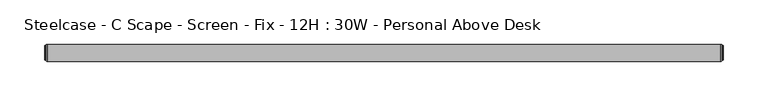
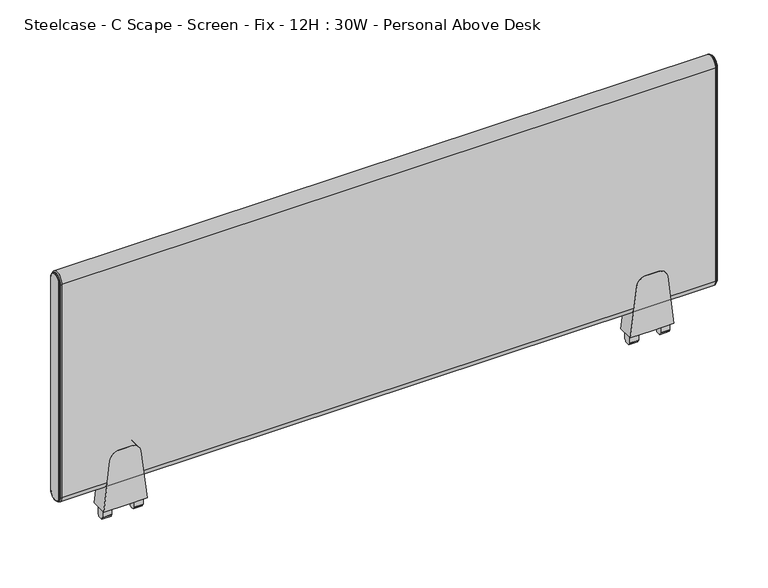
"""IFC4 building model written with IfcOpenShell, lengths in millimetres: furniture geometry, Steelcase - C Scape - Screen - Fix - 12H : 30W - Personal Above Desk."""

from ifc_helpers import new_model, si_unit, point, frame, frame_2d, origin, place, context, project, spatial, polyline, circle_curve, ellipse_curve, trimmed, segment, composite_curve, outline, extrude, source, transform, mapped, element, save
from ifc_brep_helpers import plane_surface, cylinder_surface, revolved_surface, advanced_brep


def steelcase_c_scape_screen_fix_12h_30w_personal_above_desk_3f672bbb(model_context):
    return source(origin(), model_context, "Body", "SolidModel", [
        extrude(outline(composite_curve([segment(polyline([(723.811112, 101.4730434), (784.1362421, 94.0661495)]), True, "CONTINUOUS"), segment(trimmed(circle_curve(frame_2d((782.8143718, 83.300233)), 10.8467645), [point((784.1362421, 94.0661495))], [point((793.6611362, 83.300233))], False, "CARTESIAN"), True, "CONTINUOUS"), segment(polyline([(793.6611362, 83.300233), (793.6611362, 76.2001674), (793.6611362, 69.1001018)]), True, "CONTINUOUS"), segment(trimmed(circle_curve(frame_2d((782.8143718, 69.1001018)), 10.8467645), [point((793.6611362, 69.1001018))], [point((784.1362421, 58.3341853))], False, "CARTESIAN"), True, "CONTINUOUS"), segment(polyline([(784.1362421, 58.3341853), (723.811112, 50.9272915), (723.811112, 76.2001674), (723.811112, 101.4730434)]), True, "CONTINUOUS")], self_intersect=False)), frame((0.0, -9.525, 0.0), z_axis=(0.0, 1.0, 0.0), x_axis=(0.0, 0.0, 1.0)), (0.0, 0.0, 1.0), 19.05),
        extrude(outline(polyline([(4.5465975, 723.811112), (4.5465975, 713.9051033), (4.0139265, 713.0186748), (2.9972008, 713.0186748), (2.9972008, 710.7834188), (0.0, 710.692), (-2.9972008, 710.7834188), (-2.9972008, 713.0186748), (-4.0139265, 713.0186748), (-4.5465975, 713.9051033), (-4.5465975, 723.811112), (0.0, 723.811112), (4.5465975, 723.811112)])), frame((88.9267162, 0.0, 0.0), z_axis=(1.0, 0.0, 0.0), x_axis=(0.0, 1.0, 0.0)), (0.0, 0.0, 1.0), 10.7813187),
        extrude(outline(polyline([(4.5465975, 723.811112), (4.5465975, 713.9051033), (4.0139265, 713.0186748), (2.9972008, 713.0186748), (2.9972008, 710.7834188), (0.0, 710.692), (-2.9972008, 710.7834188), (-2.9972008, 713.0186748), (-4.0139265, 713.0186748), (-4.5465975, 713.9051033), (-4.5465975, 723.811112), (0.0, 723.811112), (4.5465975, 723.811112)])), frame((52.6923, 0.0, 0.0), z_axis=(1.0, 0.0, 0.0), x_axis=(0.0, 1.0, 0.0)), (0.0, 0.0, 1.0), 10.7813187),
        extrude(outline(composite_curve([segment(polyline([(723.811112, 710.3107132), (784.1362421, 702.9038193)]), True, "CONTINUOUS"), segment(trimmed(circle_curve(frame_2d((782.8143718, 692.1379028)), 10.8467645), [point((784.1362421, 702.9038193))], [point((793.6611362, 692.1379028))], False, "CARTESIAN"), True, "CONTINUOUS"), segment(polyline([(793.6611362, 692.1379028), (793.6611362, 685.0378372), (793.6611362, 677.9377716)]), True, "CONTINUOUS"), segment(trimmed(circle_curve(frame_2d((782.8143718, 677.9377716)), 10.8467645), [point((793.6611362, 677.9377716))], [point((784.1362421, 667.1718551))], False, "CARTESIAN"), True, "CONTINUOUS"), segment(polyline([(784.1362421, 667.1718551), (723.811112, 659.7649612), (723.811112, 685.0378372), (723.811112, 710.3107132)]), True, "CONTINUOUS")], self_intersect=False)), frame((0.0, -9.525, 0.0), z_axis=(0.0, 1.0, 0.0), x_axis=(0.0, 0.0, 1.0)), (0.0, 0.0, 1.0), 19.05),
        extrude(outline(polyline([(4.5465975, 723.811112), (4.5465975, 713.9051033), (4.0139265, 713.0186748), (2.9972008, 713.0186748), (2.9972008, 710.7834188), (0.0, 710.692), (-2.9972008, 710.7834188), (-2.9972008, 713.0186748), (-4.0139265, 713.0186748), (-4.5465975, 713.9051033), (-4.5465975, 723.811112), (0.0, 723.811112), (4.5465975, 723.811112)])), frame((697.764386, 0.0, 0.0), z_axis=(1.0, 0.0, 0.0), x_axis=(0.0, 1.0, 0.0)), (0.0, 0.0, 1.0), 10.7813187),
        extrude(outline(polyline([(4.5465975, 723.811112), (4.5465975, 713.9051033), (4.0139265, 713.0186748), (2.9972008, 713.0186748), (2.9972008, 710.7834188), (0.0, 710.692), (-2.9972008, 710.7834188), (-2.9972008, 713.0186748), (-4.0139265, 713.0186748), (-4.5465975, 713.9051033), (-4.5465975, 723.811112), (0.0, 723.811112), (4.5465975, 723.811112)])), frame((661.5299698, 0.0, 0.0), z_axis=(1.0, 0.0, 0.0), x_axis=(0.0, 1.0, 0.0)), (0.0, 0.0, 1.0), 10.7813187),
        advanced_brep(
        [(758.4486613, -9.525, 1019.175), (758.4486613, 9.525, 1019.175), (758.4486613, 9.525, 758.825), (758.4486613, -9.525, 758.825), (761.2426613, 7.4929583, 1019.175), (761.2426613, -7.4929583, 1019.175), (761.2426613, -7.4929583, 758.825), (761.2426613, 7.4929583, 758.825), (760.7346545, -8.0009651, 1019.175), (760.7346545, 8.0009651, 1019.175), (759.4646613, 8.0009651, 1019.175), (759.4646613, -8.0009651, 1019.175), (759.4646613, -8.8204932, 1019.175), (759.4646613, 8.8204932, 1019.175), (759.4646613, -8.0009651, 758.825), (760.7346545, -8.0009651, 758.825), (759.4646613, -8.8204932, 758.825), (759.4646613, 8.0009651, 758.825), (760.7346545, 8.0009651, 758.825), (759.4646613, 8.8204932, 758.825)],
        [
            (0, 1, circle_curve(frame((758.4486613, 0.0, 1019.175), z_axis=(-1.0, 0.0, 0.0), x_axis=(0.0, 1.0, 0.0)), 9.525)),
            (1, 2),
            (2, 3, circle_curve(frame((758.4486613, 0.0, 758.825), z_axis=(-1.0, 0.0, 0.0), x_axis=(0.0, -1.0, 0.0)), 9.525)),
            (3, 0),
            (4, 5, circle_curve(frame((761.2426613, 0.0, 1019.175), z_axis=(1.0, 0.0, 0.0), x_axis=(0.0, 1.0, 0.0)), 7.4929583)),
            (5, 6),
            (6, 7, circle_curve(frame((761.2426613, 0.0, 758.825), z_axis=(1.0, 0.0, 0.0), x_axis=(0.0, -1.0, 0.0)), 7.4929583)),
            (7, 4),
            (8, 9, circle_curve(frame((760.7346545, 0.0, 1019.175), z_axis=(-1.0, 0.0, 0.0), x_axis=(0.0, 1.0, 0.0)), 8.0009651)),
            (9, 10),
            (10, 11, circle_curve(frame((759.4646613, 0.0, 1019.175), z_axis=(1.0, 0.0, 0.0), x_axis=(0.0, 1.0, 0.0)), 8.0009651)),
            (11, 8),
            (8, 5, circle_curve(frame((760.7346545, -7.4929583, 1019.175), z_axis=(0.0, 0.0, 1.0), x_axis=(0.0, -1.0, 0.0)), 0.5080068)),
            (4, 9, circle_curve(frame((760.7346545, 7.4929583, 1019.175), z_axis=(0.0, 0.0, 1.0), x_axis=(0.0, 1.0, 0.0)), 0.5080068)),
            (12, 13, circle_curve(frame((759.4646613, 0.0, 1019.175), z_axis=(-1.0, 0.0, 0.0), x_axis=(0.0, 1.0, 0.0)), 8.8204932)),
            (13, 1, circle_curve(frame((758.3806211, 8.3420139, 1019.175), z_axis=(0.0, 0.0, 1.0), x_axis=(0.0, 1.0, 0.0)), 1.1849411)),
            (0, 12, circle_curve(frame((758.3806211, -8.3420139, 1019.175), z_axis=(0.0, 0.0, 1.0), x_axis=(0.0, -1.0, 0.0)), 1.1849411)),
            (11, 14),
            (14, 15),
            (15, 8),
            (15, 6, circle_curve(frame((760.7346545, -7.4929583, 758.825), z_axis=(0.0, 0.0, 1.0), x_axis=(0.0, -1.0, 0.0)), 0.5080068)),
            (3, 16, circle_curve(frame((758.3806211, -8.3420139, 758.825), z_axis=(0.0, 0.0, 1.0), x_axis=(0.0, -1.0, 0.0)), 1.1849411)),
            (16, 12),
            (14, 17, circle_curve(frame((759.4646613, 0.0, 758.825), z_axis=(1.0, 0.0, 0.0), x_axis=(0.0, -1.0, 0.0)), 8.0009651)),
            (17, 18),
            (18, 15, circle_curve(frame((760.7346545, 0.0, 758.825), z_axis=(-1.0, 0.0, 0.0), x_axis=(0.0, -1.0, 0.0)), 8.0009651)),
            (18, 7, circle_curve(frame((760.7346545, 7.4929583, 758.825), z_axis=(0.0, 0.0, -1.0), x_axis=(0.0, 1.0, 0.0)), 0.5080068)),
            (2, 19, circle_curve(frame((758.3806211, 8.3420139, 758.825), z_axis=(0.0, 0.0, -1.0), x_axis=(0.0, 1.0, 0.0)), 1.1849411)),
            (19, 16, circle_curve(frame((759.4646613, 0.0, 758.825), z_axis=(-1.0, 0.0, 0.0), x_axis=(0.0, -1.0, 0.0)), 8.8204932)),
            (9, 18),
            (17, 10),
            (13, 19),
        ],
        [
            plane_surface(frame((758.4486613, -6.3509705, 1019.175), z_axis=(-1.0, 0.0, 0.0), x_axis=(0.0, 0.0, 1.0))),
            plane_surface(frame((761.2426613, -6.3509705, 1019.175), z_axis=(1.0, 0.0, 0.0), x_axis=(0.0, 0.0, -1.0))),
            cylinder_surface(frame((758.4486613, 0.0, 1019.175), z_axis=(1.0, 0.0, 0.0), x_axis=(0.0, 1.0, 0.0)), 8.0009651),
            revolved_surface(trimmed(ellipse_curve(frame((760.7346545, 7.4929583, 1019.175), z_axis=(0.0, 0.0, -1.0), x_axis=(0.0, 1.0, 0.0)), 0.5080068, 0.5080068), [point((760.7346545, 8.0009651, 1019.175))], [point((761.2426613, 7.4929583, 1019.175))], True, "CARTESIAN"), (758.4486613, 0.0, 1019.175), (1.0, 0.0, 0.0)),
            revolved_surface(trimmed(ellipse_curve(frame((758.3806211, 8.3420139, 1019.175), z_axis=(0.0, 0.0, -1.0), x_axis=(0.0, 1.0, 0.0)), 1.1849411, 1.1849411), [point((758.4486613, 9.525, 1019.175))], [point((759.4646613, 8.8204932, 1019.175))], True, "CARTESIAN"), (758.4486613, 0.0, 1019.175), (1.0, 0.0, 0.0)),
            plane_surface(frame((759.4646613, -8.0009651, 1019.175), z_axis=(0.0, -1.0, 0.0), x_axis=(0.0, 0.0, -1.0))),
            cylinder_surface(frame((760.7346545, -7.4929583, 1019.175), z_axis=(0.0, 0.0, 1.0), x_axis=(0.0, -1.0, 0.0)), 0.5080068),
            cylinder_surface(frame((758.3806211, -8.3420139, 1019.175), z_axis=(0.0, 0.0, 1.0), x_axis=(0.0, -1.0, 0.0)), 1.1849411),
            cylinder_surface(frame((758.4486613, 0.0, 758.825), z_axis=(1.0, 0.0, 0.0), x_axis=(0.0, -1.0, 0.0)), 8.0009651),
            revolved_surface(trimmed(ellipse_curve(frame((760.7346545, -7.4929583, 758.825), z_axis=(0.0, 0.0, 1.0), x_axis=(0.0, -1.0, 0.0)), 0.5080068, 0.5080068), [point((760.7346545, -8.0009651, 758.825))], [point((761.2426613, -7.4929583, 758.825))], True, "CARTESIAN"), (758.4486613, 0.0, 758.825), (1.0, 0.0, 0.0)),
            revolved_surface(trimmed(ellipse_curve(frame((758.3806211, -8.3420139, 758.825), z_axis=(0.0, 0.0, 1.0), x_axis=(0.0, -1.0, 0.0)), 1.1849411, 1.1849411), [point((758.4486613, -9.525, 758.825))], [point((759.4646613, -8.8204932, 758.825))], True, "CARTESIAN"), (758.4486613, 0.0, 758.825), (1.0, 0.0, 0.0)),
            plane_surface(frame((759.4646613, 8.0009651, 758.825), z_axis=(0.0, 1.0, 0.0), x_axis=(0.0, 0.0, 1.0))),
            cylinder_surface(frame((760.7346545, 7.4929583, 758.825), z_axis=(0.0, 0.0, -1.0), x_axis=(0.0, 1.0, 0.0)), 0.5080068),
            cylinder_surface(frame((758.3806211, 8.3420139, 758.825), z_axis=(0.0, 0.0, -1.0), x_axis=(0.0, 1.0, 0.0)), 1.1849411),
            plane_surface(frame((759.4646613, 8.8204932, 758.825), z_axis=(1.0, 0.0, 0.0), x_axis=(0.0, 0.0, 1.0))),
        ],
        [
            (0, [[1, 2, 3, 4]]),
            (1, [[5, 6, 7, 8]]),
            (2, [[9, 10, 11, 12]]),
            (3, [[-9, 13, -5, 14]]),
            (4, [[15, 16, -1, 17]]),
            (5, [[-12, 18, 19, 20]]),
            (6, [[-13, -20, 21, -6]]),
            (7, [[-17, -4, 22, 23]]),
            (8, [[-19, 24, 25, 26]]),
            (9, [[-21, -26, 27, -7]]),
            (10, [[-22, -3, 28, 29]]),
            (11, [[-10, 30, -25, 31]]),
            (12, [[-14, -8, -27, -30]]),
            (13, [[-16, 32, -28, -2]]),
            (14, [[-15, -23, -29, -32], [-11, -31, -24, -18]]),
        ],
    ),
        advanced_brep(
        [(2.7940155, 9.525, 1019.175), (2.7940155, -9.525, 1019.175), (2.7940155, -9.525, 758.825), (2.7940155, 9.525, 758.825), (0.0, -7.4929583, 1019.175), (0.0, 7.4929583, 1019.175), (0.0, 7.4929583, 758.825), (0.0, -7.4929583, 758.825), (1.778, 8.8204932, 1019.175), (1.778, -8.8204932, 1019.175), (0.5080068, -8.0009651, 1019.175), (0.5080068, 8.0009651, 1019.175), (1.778, -8.0009651, 1019.175), (1.778, 8.0009651, 1019.175), (1.778, -8.8204932, 758.825), (0.5080068, -8.0009651, 758.825), (1.778, -8.0009651, 758.825), (1.778, 8.8204932, 758.825), (0.5080068, 8.0009651, 758.825), (1.778, 8.0009651, 758.825)],
        [
            (0, 1, circle_curve(frame((2.7940155, 0.0, 1019.175), z_axis=(1.0, 0.0, 0.0), x_axis=(0.0, 1.0, 0.0)), 9.525)),
            (1, 2),
            (2, 3, circle_curve(frame((2.7940155, 0.0, 758.825), z_axis=(1.0, 0.0, 0.0), x_axis=(0.0, -1.0, 0.0)), 9.525)),
            (3, 0),
            (4, 5, circle_curve(frame((0.0, 0.0, 1019.175), z_axis=(-1.0, 0.0, 0.0), x_axis=(0.0, 1.0, 0.0)), 7.4929583)),
            (5, 6),
            (6, 7, circle_curve(frame((0.0, 0.0, 758.825), z_axis=(-1.0, 0.0, 0.0), x_axis=(0.0, -1.0, 0.0)), 7.4929583)),
            (7, 4),
            (0, 8, circle_curve(frame((2.8620402, 8.3420139, 1019.175), z_axis=(0.0, 0.0, 1.0), x_axis=(0.0, -1.0, 0.0)), 1.1849411)),
            (8, 9, circle_curve(frame((1.778, 0.0, 1019.175), z_axis=(1.0, 0.0, 0.0), x_axis=(0.0, 1.0, 0.0)), 8.8204932)),
            (9, 1, circle_curve(frame((2.8620402, -8.3420139, 1019.175), z_axis=(0.0, 0.0, 1.0), x_axis=(0.0, 1.0, 0.0)), 1.1849411)),
            (10, 11, circle_curve(frame((0.5080068, 0.0, 1019.175), z_axis=(-1.0, 0.0, 0.0), x_axis=(0.0, 1.0, 0.0)), 8.0009651)),
            (11, 5, circle_curve(frame((0.5080068, 7.4929583, 1019.175), z_axis=(0.0, 0.0, 1.0), x_axis=(0.0, -1.0, 0.0)), 0.5080068)),
            (4, 10, circle_curve(frame((0.5080068, -7.4929583, 1019.175), z_axis=(0.0, 0.0, 1.0), x_axis=(0.0, 1.0, 0.0)), 0.5080068)),
            (10, 12),
            (12, 13, circle_curve(frame((1.778, 0.0, 1019.175), z_axis=(-1.0, 0.0, 0.0), x_axis=(0.0, 1.0, 0.0)), 8.0009651)),
            (13, 11),
            (9, 14),
            (14, 2, circle_curve(frame((2.8620402, -8.3420139, 758.825), z_axis=(0.0, 0.0, 1.0), x_axis=(0.0, 1.0, 0.0)), 1.1849411)),
            (7, 15, circle_curve(frame((0.5080068, -7.4929583, 758.825), z_axis=(0.0, 0.0, 1.0), x_axis=(0.0, 1.0, 0.0)), 0.5080068)),
            (15, 10),
            (15, 16),
            (16, 12),
            (14, 17, circle_curve(frame((1.778, 0.0, 758.825), z_axis=(1.0, 0.0, 0.0), x_axis=(0.0, -1.0, 0.0)), 8.8204932)),
            (17, 3, circle_curve(frame((2.8620402, 8.3420139, 758.825), z_axis=(0.0, 0.0, -1.0), x_axis=(0.0, -1.0, 0.0)), 1.1849411)),
            (6, 18, circle_curve(frame((0.5080068, 7.4929583, 758.825), z_axis=(0.0, 0.0, -1.0), x_axis=(0.0, -1.0, 0.0)), 0.5080068)),
            (18, 15, circle_curve(frame((0.5080068, 0.0, 758.825), z_axis=(-1.0, 0.0, 0.0), x_axis=(0.0, -1.0, 0.0)), 8.0009651)),
            (18, 19),
            (19, 16, circle_curve(frame((1.778, 0.0, 758.825), z_axis=(-1.0, 0.0, 0.0), x_axis=(0.0, -1.0, 0.0)), 8.0009651)),
            (8, 17),
            (19, 13),
            (11, 18),
        ],
        [
            plane_surface(frame((2.7940155, -6.3509705, 1019.175), z_axis=(1.0, 0.0, 0.0), x_axis=(0.0, 0.0, -1.0))),
            plane_surface(frame((0.0, -6.3509705, 1019.175), z_axis=(-1.0, 0.0, 0.0), x_axis=(0.0, 0.0, 1.0))),
            revolved_surface(trimmed(ellipse_curve(frame((2.8620402, 8.3420139, 1019.175), z_axis=(0.0, 0.0, -1.0), x_axis=(0.0, -1.0, 0.0)), 1.1849411, 1.1849411), [point((1.778, 8.8204932, 1019.175))], [point((2.794, 9.525, 1019.175))], True, "CARTESIAN"), (2.794, 0.0, 1019.175), (1.0, 0.0, 0.0)),
            revolved_surface(trimmed(ellipse_curve(frame((0.5080068, 7.4929583, 1019.175), z_axis=(0.0, 0.0, -1.0), x_axis=(0.0, -1.0, 0.0)), 0.5080068, 0.5080068), [point((0.0, 7.4929583, 1019.175))], [point((0.5080068, 8.0009651, 1019.175))], True, "CARTESIAN"), (2.794, 0.0, 1019.175), (1.0, 0.0, 0.0)),
            cylinder_surface(frame((2.794, 0.0, 1019.175), z_axis=(1.0, 0.0, 0.0), x_axis=(0.0, 1.0, 0.0)), 8.0009651),
            cylinder_surface(frame((2.8620402, -8.3420139, 1019.175), z_axis=(0.0, 0.0, 1.0), x_axis=(0.0, 1.0, 0.0)), 1.1849411),
            cylinder_surface(frame((0.5080068, -7.4929583, 1019.175), z_axis=(0.0, 0.0, 1.0), x_axis=(0.0, 1.0, 0.0)), 0.5080068),
            plane_surface(frame((0.5080068, -8.0009651, 1019.175), z_axis=(0.0, -1.0, 0.0), x_axis=(0.0, 0.0, -1.0))),
            revolved_surface(trimmed(ellipse_curve(frame((2.8620402, -8.3420139, 758.825), z_axis=(0.0, 0.0, 1.0), x_axis=(0.0, 1.0, 0.0)), 1.1849411, 1.1849411), [point((1.778, -8.8204932, 758.825))], [point((2.794, -9.525, 758.825))], True, "CARTESIAN"), (2.794, 0.0, 758.825), (1.0, 0.0, 0.0)),
            revolved_surface(trimmed(ellipse_curve(frame((0.5080068, -7.4929583, 758.825), z_axis=(0.0, 0.0, 1.0), x_axis=(0.0, 1.0, 0.0)), 0.5080068, 0.5080068), [point((0.0, -7.4929583, 758.825))], [point((0.5080068, -8.0009651, 758.825))], True, "CARTESIAN"), (2.794, 0.0, 758.825), (1.0, 0.0, 0.0)),
            cylinder_surface(frame((2.794, 0.0, 758.825), z_axis=(1.0, 0.0, 0.0), x_axis=(0.0, -1.0, 0.0)), 8.0009651),
            plane_surface(frame((1.778, 8.0009651, 758.825), z_axis=(-1.0, 0.0, 0.0), x_axis=(0.0, 0.0, 1.0))),
            cylinder_surface(frame((2.8620402, 8.3420139, 758.825), z_axis=(0.0, 0.0, -1.0), x_axis=(0.0, -1.0, 0.0)), 1.1849411),
            cylinder_surface(frame((0.5080068, 7.4929583, 758.825), z_axis=(0.0, 0.0, -1.0), x_axis=(0.0, -1.0, 0.0)), 0.5080068),
            plane_surface(frame((0.5080068, 8.0009651, 758.825), z_axis=(0.0, 1.0, 0.0), x_axis=(0.0, 0.0, 1.0))),
        ],
        [
            (0, [[1, 2, 3, 4]]),
            (1, [[5, 6, 7, 8]]),
            (2, [[-1, 9, 10, 11]]),
            (3, [[12, 13, -5, 14]]),
            (4, [[-12, 15, 16, 17]]),
            (5, [[-11, 18, 19, -2]]),
            (6, [[-14, -8, 20, 21]]),
            (7, [[-15, -21, 22, 23]]),
            (8, [[-19, 24, 25, -3]]),
            (9, [[-20, -7, 26, 27]]),
            (10, [[-22, -27, 28, 29]]),
            (11, [[-10, 30, -24, -18], [-16, -23, -29, 31]]),
            (12, [[-9, -4, -25, -30]]),
            (13, [[-13, 32, -26, -6]]),
            (14, [[-17, -31, -28, -32]]),
        ],
    ),
        extrude(outline(composite_curve([segment(trimmed(circle_curve(frame_2d((0.0, 1019.175)), 9.525), [point((-9.525, 1019.175))], [point((9.525, 1019.175))], False, "CARTESIAN"), True, "CONTINUOUS"), segment(polyline([(9.525, 1019.175), (9.525, 758.825)]), True, "CONTINUOUS"), segment(trimmed(circle_curve(frame_2d((0.0, 758.825)), 9.525), [point((9.525, 758.825))], [point((-9.525, 758.825))], False, "CARTESIAN"), True, "CONTINUOUS"), segment(polyline([(-9.525, 758.825), (-9.525, 1019.175)]), True, "CONTINUOUS")], self_intersect=False)), frame((2.794, 0.0, 0.0), z_axis=(1.0, 0.0, 0.0), x_axis=(0.0, 1.0, 0.0)), (0.0, 0.0, 1.0), 755.6546613),
    ])


if __name__ == "__main__":
    model = new_model("IFC4")
    model_context = context("Model", 3, world=origin())
    ifc_project = project(units=[si_unit("LENGTHUNIT", "METRE", prefix="MILLI")], contexts=[model_context])
    site = spatial("IfcSite", under=ifc_project)
    building = spatial("IfcBuilding", under=site)
    placement = place(None, origin())
    steelcase_c_scape_screen_fix_12h_30w_personal_above_desk_shape = steelcase_c_scape_screen_fix_12h_30w_personal_above_desk_3f672bbb(model_context)
    element("IfcFurniture", 1, ObjectType="Steelcase - C Scape - Screen - Fix - 12H : 30W - Personal Above Desk", at=placement, inside=building, context=model_context, shape_type="MappedRepresentation", body=[
        mapped(steelcase_c_scape_screen_fix_12h_30w_personal_above_desk_shape, transform((0.0, 0.0, 0.0), x_axis=(1.0, 0.0, 0.0), y_axis=(0.0, 1.0, 0.0), z_axis=(0.0, 0.0, 1.0))),
    ])
    save(model, "model.ifc")
